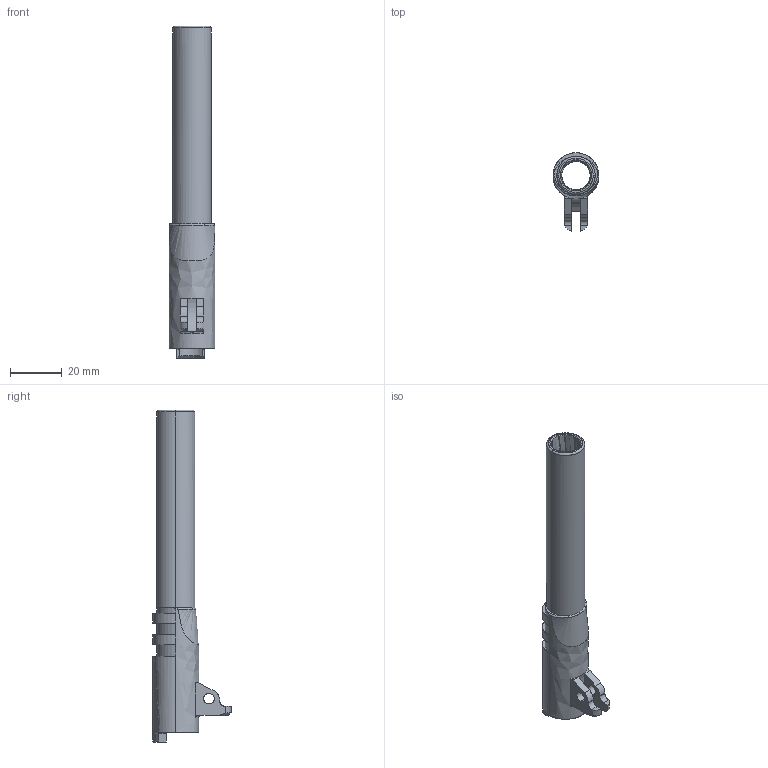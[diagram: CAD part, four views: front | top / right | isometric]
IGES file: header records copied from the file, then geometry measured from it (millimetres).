
Start section: SolidWorks IGES file using analytic representation for surfaces
Global section: file name: \\PSSILO\catalogs\CONTENTCENTRAL\Original Springfield Barrel\Cache\0E81647A-B2F8-423C-B739-A9AC7C940C2F.IGS; native system: SolidWorks 2009; preprocessor: SolidWorks 2009; author: partstream; date: 090716.112555; units: inch
Bounding box: 17.68 x 30.18 x 127.79 mm (x, y, z)
Surface area: 12008.8 mm2 (no closed solid volume)
Topology: 0 solids, 0 shells, 107 faces, 1634 edges, 1634 vertices
Faces by surface type: bspline 55, revolution 52
